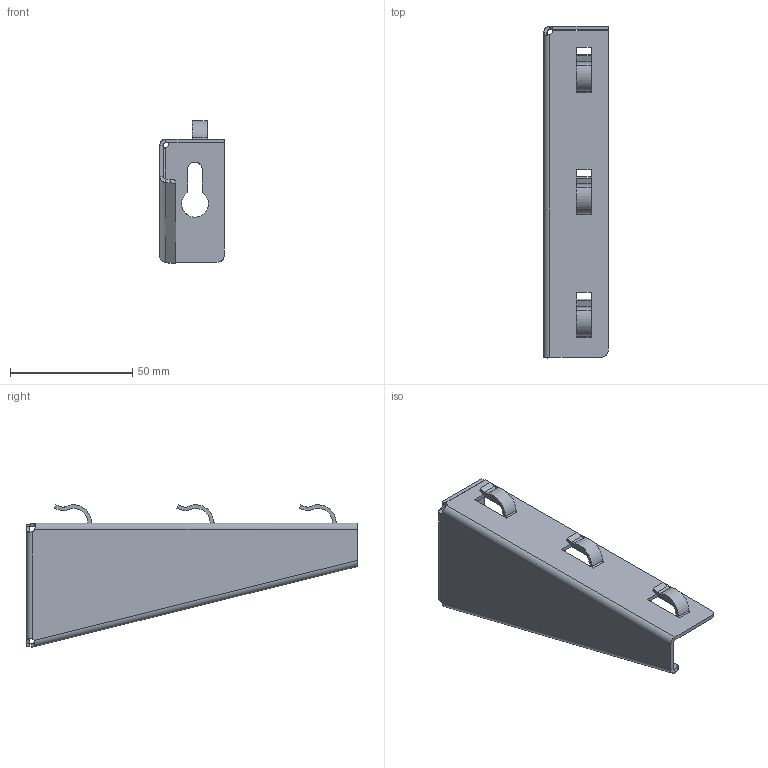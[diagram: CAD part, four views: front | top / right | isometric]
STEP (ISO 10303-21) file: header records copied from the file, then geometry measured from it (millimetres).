
FILE_DESCRIPTION(/* description */ (''),/* implementation_level */ '2;1');
FILE_NAME(/* name */ 'NZM100',/* time_stamp */ '2025-01-30T14:03:08+01:00',/* author */ (''),/* organization */ (''),/* preprocessor_version */ 'ST-DEVELOPER v16.5',/* originating_system */ '',/* authorisation */ '');
FILE_SCHEMA (('CONFIG_CONTROL_DESIGN'));
Length unit declared in the file: millimetre
Products named in the file (1): Document
Bounding box: 26.39 x 135.66 x 58.2 mm (x, y, z)
Volume: 14163.6 mm3; surface area: 20228.4 mm2
Topology: 4 solids, 4 shells, 103 faces, 261 edges, 166 vertices
Faces by surface type: plane 42, bspline 35, cylinder 26
Entity records: 3113 total; most frequent: CARTESIAN_POINT 1436, ORIENTED_EDGE 522, EDGE_CURVE 261, VERTEX_POINT 166, EDGE_LOOP 111, ADVANCED_FACE 103, FACE_OUTER_BOUND 103, B_SPLINE_CURVE_WITH_KNOTS 95
